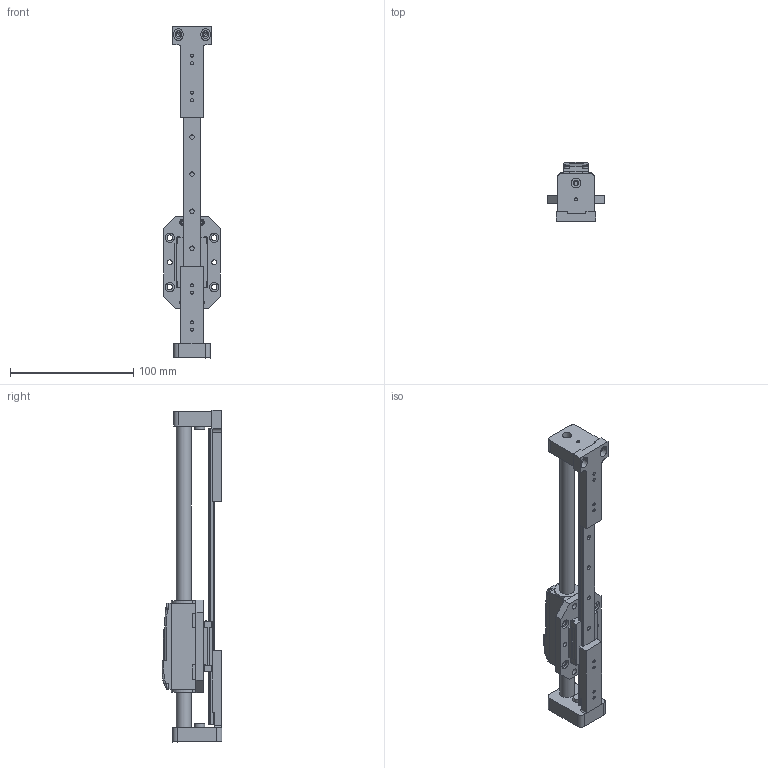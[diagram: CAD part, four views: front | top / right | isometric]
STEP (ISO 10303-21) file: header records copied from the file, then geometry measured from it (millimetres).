
FILE_DESCRIPTION(('FreeCAD Model'),'2;1');
FILE_NAME('C:/Users/Patrik/Desktop/FreeCAD/0000-0200 Lineární aktuátor, LM statický/LA_LMMR-09-160.step','2019-04-22T20:13:02',('Author'),(''), 'Open CASCADE STEP processor 7.3','FreeCAD','Unknown');
FILE_SCHEMA(('AUTOMOTIVE_DESIGN { 1 0 10303 214 1 1 1 1 }'));
Length unit declared in the file: millimetre
Products named in the file (14): Zdvih_160; Static003; Chamfer003; LG005; LG004; Alle_Motoren006; Moving003; Pocket006; Body013; Body011; LG003; Alle_Motoren008; _K0571.00800861; _K0571.00800862
Assembly tree (13 placements, depth 4):
  Zdvih_160
    Static003
      Chamfer003
      LG005
        LG004
      Alle_Motoren006
    Moving003
      Pocket006
      Body013
      Body011
      LG003
      Alle_Motoren008
      _K0571.00800861
      _K0571.00800862
Bounding box: 46 x 48.4 x 269 mm (x, y, z)
Volume: 135986.1 mm3; surface area: 62581.4 mm2
Topology: 10 solids, 10 shells, 576 faces, 1434 edges, 938 vertices
Faces by surface type: plane 308, cylinder 231, cone 21, revolution 8, torus 6, extrusion 2
Full cylindrical faces by diameter (mm): 2.05 x4, 2.5 x10, 3 x6, 3.3 x8, 3.5 x4, 4 x5, 4.5 x8, 4.6 x2, 5 x4, 6 x4, 7.5 x8, 7.7 x2, 8 x2, 9 x2, 12 x1, 12.08 x1, 12.4 x2, 19.9 x2
Entity records: 38007 total; most frequent: CARTESIAN_POINT 9094, DIRECTION 5339, VECTOR 3002, LINE 3000, ORIENTED_EDGE 2834, PCURVE 2834, DEFINITIONAL_REPRESENTATION 2834, EDGE_CURVE 1417
